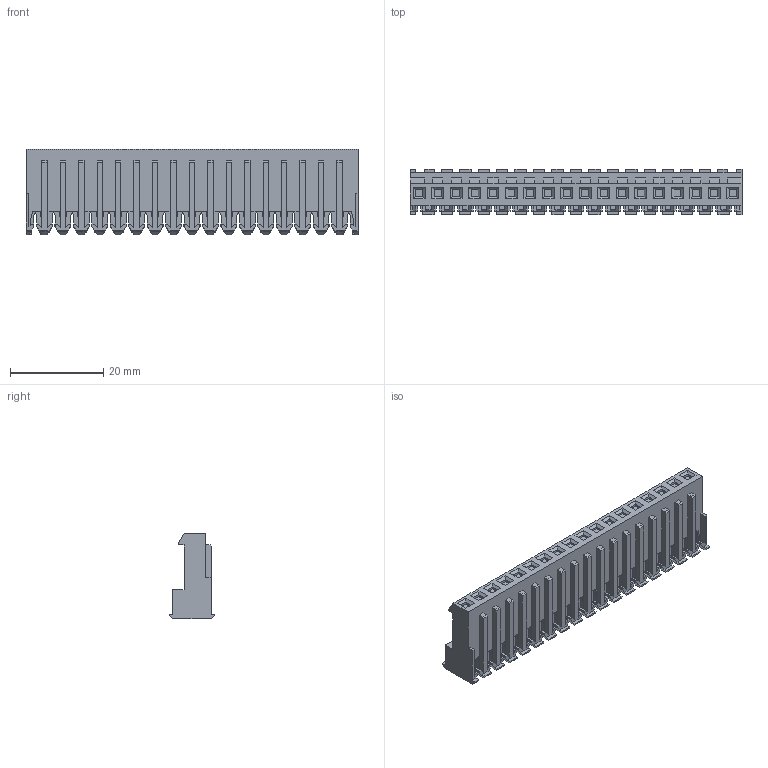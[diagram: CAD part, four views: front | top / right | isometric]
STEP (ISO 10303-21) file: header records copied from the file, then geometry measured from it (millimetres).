
FILE_DESCRIPTION((''),'2;1');
FILE_NAME('C-4-640600-8','2021-08-12T11:37:03',('workeradm'),('TE Connectivity Ltd.'),'CREO PARAMETRIC BY PTC INC, 2021072','CREO PARAMETRIC BY PTC INC, 2021072','');
FILE_SCHEMA(('AUTOMOTIVE_DESIGN { 1 0 10303 214 1 1 1 1 }'));
Length unit declared in the file: millimetre
Products named in the file (1): C-4-640600-8
Bounding box: 71.32 x 9.78 x 18.41 mm (x, y, z)
Volume: 5867.9 mm3; surface area: 7404.3 mm2
Topology: 1 solids, 1 shells, 1979 faces, 5804 edges, 3810 vertices
Faces by surface type: plane 1817, cylinder 162
Entity records: 64566 total; most frequent: ORIENTED_EDGE 11608, CARTESIAN_POINT 11595, DIRECTION 10086, EDGE_CURVE 5804, VECTOR 5480, LINE 5480, VERTEX_POINT 3810, AXIS2_PLACEMENT_3D 2303
